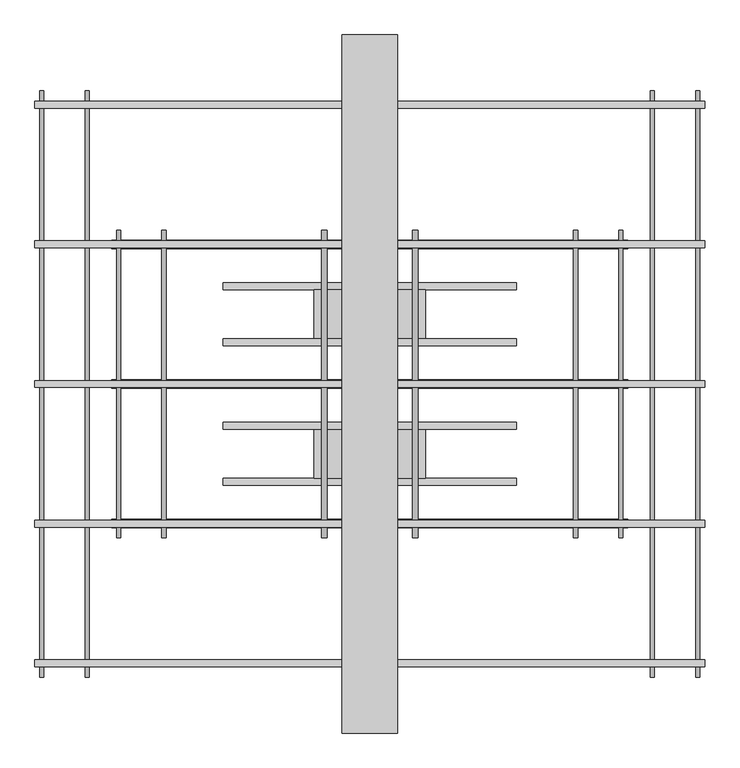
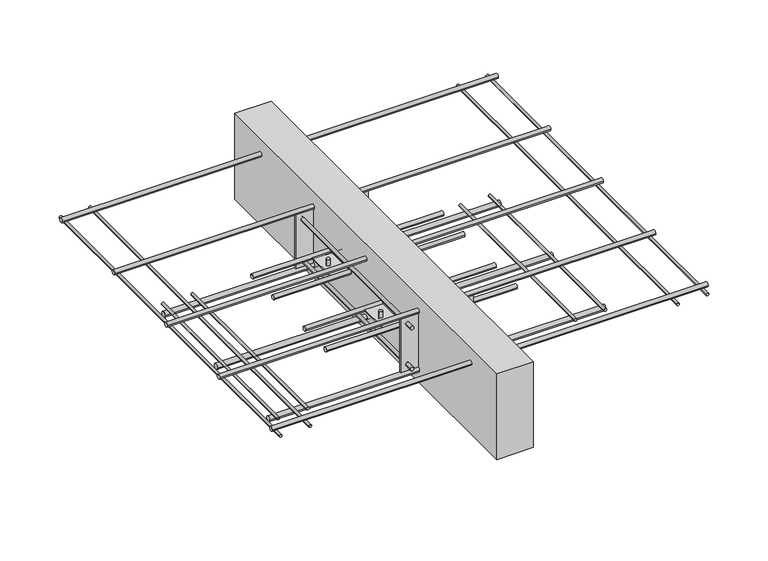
"""IFC4 building model written with IfcOpenShell, lengths in millimetres: fastener geometry, ACINOXplus_Typenreihe_K : KB+ S2."""

import ifcopenshell
import ifcopenshell.guid

model = None  # the IFC model being written
_history = None  # IfcOwnerHistory: only IFC2X3 demands one
_inside = {}  # id of a spatial element -> (the spatial element, [elements in it])
_under = {}  # id of a project, library or spatial element -> (it, [spatial elements below it])
_declared = {}  # id of a project -> (the project, [libraries it declares])
_typed = {}  # id of a type object -> (the type object, [elements of that type])
_made_of = {}  # id of a material, layer set ... -> (it, [elements and type objects made of it])


def new_model(schema):
    """Start an empty IFC model of exactly this schema.

    Asked for "IFC4X3", IfcOpenShell would pick the latest addendum, in which some entities
    have other attributes; the version numbers below select the first issue.
    IFC2X3 requires an IfcOwnerHistory on every rooted entity: one is made here for all.
    """
    global model, _history
    if schema == "IFC4X3":
        model = ifcopenshell.file(schema_version=(4, 3, 0, 0))
    else:
        model = ifcopenshell.file(schema=schema)
    _inside.clear()
    _under.clear()
    _declared.clear()
    _typed.clear()
    _made_of.clear()
    _history = None
    if model.schema == "IFC2X3":
        org = make("IfcOrganization", Name="unknown")
        user = make(
            "IfcPersonAndOrganization",
            ThePerson=make("IfcPerson", FamilyName="unknown"),
            TheOrganization=org,
        )
        app = make(
            "IfcApplication",
            ApplicationDeveloper=org,
            Version="unknown",
            ApplicationFullName="unknown",
            ApplicationIdentifier="unknown",
        )
        _history = make(
            "IfcOwnerHistory",
            OwningUser=user,
            OwningApplication=app,
            ChangeAction="ADDED",
            CreationDate=0,
        )
    return model


def make(cls, **values):
    """One entity of the class cls with the attributes given. An attribute that is None is left unset."""
    return model.create_entity(
        cls, **{name: value for name, value in values.items() if value is not None}
    )


def rooted(cls, **values):
    """An entity with a GlobalId (a new one), such as an element, a storey or a relation."""
    return make(cls, GlobalId=ifcopenshell.guid.new(), OwnerHistory=_history, **values)


def si_unit(unit_type, name, prefix=None):
    """IfcSIUnit, for example si_unit("LENGTHUNIT", "METRE", prefix="MILLI")."""
    return make("IfcSIUnit", UnitType=unit_type, Prefix=prefix, Name=name)


def assignment(units):
    """IfcUnitAssignment: the units of a project."""
    return None if units is None else make("IfcUnitAssignment", Units=units)


def point(xyz):
    """IfcCartesianPoint."""
    return None if xyz is None else make("IfcCartesianPoint", Coordinates=xyz)


def direction(xyz):
    """IfcDirection."""
    return None if xyz is None else make("IfcDirection", DirectionRatios=xyz)


def frame(location, z_axis=None, x_axis=None):
    """IfcAxis2Placement3D, a coordinate frame: its origin and axes. An axis left out is left unset."""
    return make(
        "IfcAxis2Placement3D",
        Location=point(location),
        Axis=direction(z_axis),
        RefDirection=direction(x_axis),
    )


def frame_2d(location, x_axis=None):
    """IfcAxis2Placement2D, a coordinate frame in the plane: its origin and x axis."""
    return make(
        "IfcAxis2Placement2D", Location=point(location), RefDirection=direction(x_axis)
    )


def origin():
    """The frame at (0, 0, 0) with its axes left unset."""
    return frame((0.0, 0.0, 0.0))


def place(relative_to, where):
    """IfcLocalPlacement: puts the frame where relative to a parent placement (None: the world)."""
    return make(
        "IfcLocalPlacement", PlacementRelTo=relative_to, RelativePlacement=where
    )


def context(
    kind, dimensions, precision=None, world=None, true_north=None, identifier=None
):
    """IfcGeometricRepresentationContext, for example the 3D "Model" context."""
    return make(
        "IfcGeometricRepresentationContext",
        ContextIdentifier=identifier,
        ContextType=kind,
        CoordinateSpaceDimension=dimensions,
        Precision=precision,
        WorldCoordinateSystem=world,
        TrueNorth=true_north,
    )


def project(units=None, contexts=None):
    """IfcProject with its units and contexts."""
    return rooted(
        "IfcProject",
        Name="project",
        RepresentationContexts=contexts,
        UnitsInContext=assignment(units),
    )


def spatial(cls, under=None, at=None, **own):
    """A site, building, storey or space (cls), placed at a placement, below another one or the project."""
    s = rooted(cls, ObjectPlacement=at, **own)
    if under is not None:
        _under.setdefault(under.id(), (under, []))[1].append(s)
    return s


def polyline(points):
    """IfcPolyline through the points."""
    return make("IfcPolyline", Points=[point(p) for p in points])


def circle_curve(where, radius):
    """IfcCircle in the frame where."""
    return make("IfcCircle", Position=where, Radius=radius)


def trimmed(basis, trim1, trim2, sense, master):
    """IfcTrimmedCurve: the piece of a basis curve between two trims."""
    return make(
        "IfcTrimmedCurve",
        BasisCurve=basis,
        Trim1=trim1,
        Trim2=trim2,
        SenseAgreement=sense,
        MasterRepresentation=master,
    )


def segment(curve, same_sense, transition):
    """IfcCompositeCurveSegment."""
    return make(
        "IfcCompositeCurveSegment",
        Transition=transition,
        SameSense=same_sense,
        ParentCurve=curve,
    )


def composite_curve(segments, self_intersect=None):
    """IfcCompositeCurve: segments joined end to end."""
    return make("IfcCompositeCurve", Segments=segments, SelfIntersect=self_intersect)


def outline(outer, holes=None, kind="AREA"):
    """IfcArbitraryClosedProfileDef: a profile drawn as a closed curve; with holes, ...WithVoids."""
    if holes is None:
        return make("IfcArbitraryClosedProfileDef", ProfileType=kind, OuterCurve=outer)
    return make(
        "IfcArbitraryProfileDefWithVoids",
        ProfileType=kind,
        OuterCurve=outer,
        InnerCurves=holes,
    )


def extrude(swept, where, along, depth):
    """IfcExtrudedAreaSolid: the profile swept, set in the frame where, extruded along a direction by depth."""
    return make(
        "IfcExtrudedAreaSolid",
        SweptArea=swept,
        Position=where,
        ExtrudedDirection=direction(along),
        Depth=depth,
    )


def shape(context_of_items, identifier, shape_type, items):
    """IfcShapeRepresentation: the items that make up one representation, for example the "Body"."""
    return make(
        "IfcShapeRepresentation",
        ContextOfItems=context_of_items,
        RepresentationIdentifier=identifier,
        RepresentationType=shape_type,
        Items=items,
    )


def source(mapping_origin, context_of_items, identifier, shape_type, items):
    """IfcRepresentationMap: a shape defined once, which mapped items show again and again."""
    return make(
        "IfcRepresentationMap",
        MappingOrigin=mapping_origin,
        MappedRepresentation=shape(context_of_items, identifier, shape_type, items),
    )


def transform(
    local_origin,
    x_axis=None,
    y_axis=None,
    z_axis=None,
    scale=None,
    scale2=None,
    scale3=None,
    uniform=True,
):
    """IfcCartesianTransformationOperator3D, or its non-uniform kind. x_axis, y_axis, z_axis: its Axis1, 2, 3."""
    if uniform:
        return make(
            "IfcCartesianTransformationOperator3D",
            Axis1=direction(x_axis),
            Axis2=direction(y_axis),
            LocalOrigin=point(local_origin),
            Scale=scale,
            Axis3=direction(z_axis),
        )
    return make(
        "IfcCartesianTransformationOperator3DnonUniform",
        Axis1=direction(x_axis),
        Axis2=direction(y_axis),
        LocalOrigin=point(local_origin),
        Scale=scale,
        Axis3=direction(z_axis),
        Scale2=scale2,
        Scale3=scale3,
    )


def mapped(mapping_source, mapping_target):
    """IfcMappedItem: shows the shape of a source again, moved by a transform."""
    return make(
        "IfcMappedItem", MappingSource=mapping_source, MappingTarget=mapping_target
    )


def made_of(thing, what):
    """Note that an element or type object is made of a material, layer set ...; save() writes the relation."""
    if what is not None:
        _made_of.setdefault(what.id(), (what, []))[1].append(thing)
    return thing


def element(
    cls,
    number,
    at=None,
    inside=None,
    cuts=None,
    type_object=None,
    material=None,
    context=None,
    identifier="Body",
    shape_type=None,
    held_by="IfcProductDefinitionShape",
    body=None,
    shapes=None,
    **own,
):
    """One element of the class cls, such as IfcWall. Its Tag is "e" and its number.

    at: its placement. inside: the storey or other place that contains it. cuts: it is an
    opening in that element (IfcRelVoidsElement). A single representation is given by context,
    identifier, shape_type and body (its items); several are given by shapes. held_by: the class
    of the entity that holds the representations. save() writes the other relations.
    """
    e = rooted(cls, Tag="e%d" % number, ObjectPlacement=at, **own)
    if body is not None:
        shapes = [shape(context, identifier, shape_type, body)]
    if shapes is not None:
        e.Representation = make(held_by, Representations=shapes)
    if inside is not None:
        _inside.setdefault(inside.id(), (inside, []))[1].append(e)
    if cuts is not None:
        rooted(
            "IfcRelVoidsElement", RelatingBuildingElement=cuts, RelatedOpeningElement=e
        )
    if type_object is not None:
        _typed.setdefault(type_object.id(), (type_object, []))[1].append(e)
    return made_of(e, material)


def aggregate(whole, parts):
    """IfcRelAggregates: a whole, such as a stair, and the parts it consists of."""
    return rooted("IfcRelAggregates", RelatingObject=whole, RelatedObjects=parts)


def save(model, path):
    """Write the relations noted so far, then the file.

    IfcRelAggregates (storeys below a building ...), IfcRelContainedInSpatialStructure (elements
    in a storey), IfcRelDefinesByType, IfcRelAssociatesMaterial and IfcRelDeclares: one each for
    every whole, place, type object, material and project.
    """
    for whole, parts in _under.values():
        aggregate(whole, parts)
    for where, things in _inside.values():
        rooted(
            "IfcRelContainedInSpatialStructure",
            RelatedElements=things,
            RelatingStructure=where,
        )
    for kind, things in _typed.values():
        rooted("IfcRelDefinesByType", RelatedObjects=things, RelatingType=kind)
    for what, things in _made_of.values():
        rooted("IfcRelAssociatesMaterial", RelatedObjects=things, RelatingMaterial=what)
    for by, libraries in _declared.values():
        rooted("IfcRelDeclares", RelatingContext=by, RelatedDefinitions=libraries)
    model.write(path)


def plane_surface(at):
    """IfcPlane: the flat surface through the origin of the frame at, square to its z axis."""
    return make("IfcPlane", Position=at)


def cylinder_surface(at, radius):
    """IfcCylindricalSurface: all points at the distance radius from the z axis of the frame at."""
    return make("IfcCylindricalSurface", Position=at, Radius=radius)


def advanced_brep(points, edges, surfaces, faces):
    """IfcAdvancedBrep: a solid bounded by faces that lie on surfaces and meet in shared edges.

    An edge is (start, end): straight between two places in points (the first is 0);
    or (start, end, curve); or (start, end, curve, False) where it runs against its curve.
    A face is (place in surfaces, loops), or (place, loops, False) where it looks against
    its surface's normal. A loop lists edges by number (the first is 1), with a minus sign
    where the edge is run from its end to its start. The first loop is the outer one.
    """
    corners = [point(p) for p in points]
    vertices = [make("IfcVertexPoint", VertexGeometry=c) for c in corners]
    made = []
    for start, end, *more in edges:
        made.append(
            make(
                "IfcEdgeCurve",
                EdgeStart=vertices[start],
                EdgeEnd=vertices[end],
                EdgeGeometry=more[0] if more else make("IfcPolyline", Points=[corners[start], corners[end]]),
                SameSense=more[1] if len(more) > 1 else True,
            )
        )
    hull = []
    for where, loops, *sense in faces:
        bounds = []
        for j, loop in enumerate(loops):
            ring = [make("IfcOrientedEdge", EdgeElement=made[abs(k) - 1], Orientation=k > 0) for k in loop]
            bounds.append(
                make(
                    "IfcFaceOuterBound" if j == 0 else "IfcFaceBound",
                    Bound=make("IfcEdgeLoop", EdgeList=ring),
                    Orientation=True,
                )
            )
        hull.append(make("IfcAdvancedFace", Bounds=bounds, FaceSurface=surfaces[where], SameSense=sense[0] if sense else True))
    return make("IfcAdvancedBrep", Outer=make("IfcClosedShell", CfsFaces=hull))


def fastener_a3724b27(model_context):
    return source(origin(), model_context, "Body", "SolidModel", [
        extrude(outline(composite_curve([segment(trimmed(circle_curve(frame_2d((-140.0, -102.5)), 5.0), [point((-145.0, -102.5))], [point((-135.0, -102.5))], False, "CARTESIAN"), True, "CONTINUOUS"), segment(trimmed(circle_curve(frame_2d((-140.0, -102.5)), 5.0), [point((-135.0, -102.5))], [point((-145.0, -102.5))], False, "CARTESIAN"), True, "CONTINUOUS")], self_intersect=False)), frame((-210.0, 0.0, 0.0), z_axis=(1.0, 0.0, 0.0), x_axis=(0.0, 1.0, 0.0)), (0.0, 0.0, 1.0), 420.0),
        extrude(outline(composite_curve([segment(trimmed(circle_curve(frame_2d((-60.0, -102.5)), 5.0), [point((-65.0, -102.5))], [point((-55.0, -102.5))], False, "CARTESIAN"), True, "CONTINUOUS"), segment(trimmed(circle_curve(frame_2d((-60.0, -102.5)), 5.0), [point((-55.0, -102.5))], [point((-65.0, -102.5))], False, "CARTESIAN"), True, "CONTINUOUS")], self_intersect=False)), frame((-210.0, 0.0, 0.0), z_axis=(1.0, 0.0, 0.0), x_axis=(0.0, 1.0, 0.0)), (0.0, 0.0, 1.0), 420.0),
        advanced_brep(
        [(-69.0, -100.0, -87.5), (-61.0, -100.0, -87.5), (61.0, -100.0, -87.5), (69.0, -100.0, -87.5), (-69.0, -100.0, -117.5), (-61.0, -100.0, -117.5), (61.0, -100.0, -117.5), (69.0, -100.0, -117.5), (-69.0, -100.0, -101.0), (-61.0, -100.0, -101.0), (-61.0, -100.0, -104.0), (-69.0, -100.0, -104.0), (61.0, -100.0, -101.0), (69.0, -100.0, -101.0), (69.0, -100.0, -104.0), (61.0, -100.0, -104.0), (80.0, -65.0, -101.0), (-80.0, -65.0, -101.0), (-80.0, -135.0, -101.0), (80.0, -135.0, -101.0), (80.0, -65.0, -104.0), (80.0, -135.0, -104.0), (-80.0, -135.0, -104.0), (-80.0, -65.0, -104.0)],
        [
            (0, 1, circle_curve(frame((-65.0, -100.0, -87.5), z_axis=(0.0, 0.0, 1.0), x_axis=(1.0, 0.0, 0.0)), 4.0)),
            (1, 0, circle_curve(frame((-65.0, -100.0, -87.5), z_axis=(0.0, 0.0, 1.0), x_axis=(1.0, 0.0, 0.0)), 4.0)),
            (2, 3, circle_curve(frame((65.0, -100.0, -87.5), z_axis=(0.0, 0.0, 1.0), x_axis=(1.0, 0.0, 0.0)), 4.0)),
            (3, 2, circle_curve(frame((65.0, -100.0, -87.5), z_axis=(0.0, 0.0, 1.0), x_axis=(1.0, 0.0, 0.0)), 4.0)),
            (4, 5, circle_curve(frame((-65.0, -100.0, -117.5), z_axis=(0.0, 0.0, -1.0), x_axis=(1.0, 0.0, 0.0)), 4.0)),
            (5, 4, circle_curve(frame((-65.0, -100.0, -117.5), z_axis=(0.0, 0.0, -1.0), x_axis=(1.0, 0.0, 0.0)), 4.0)),
            (6, 7, circle_curve(frame((65.0, -100.0, -117.5), z_axis=(0.0, 0.0, -1.0), x_axis=(1.0, 0.0, 0.0)), 4.0)),
            (7, 6, circle_curve(frame((65.0, -100.0, -117.5), z_axis=(0.0, 0.0, -1.0), x_axis=(1.0, 0.0, 0.0)), 4.0)),
            (0, 8),
            (8, 9, circle_curve(frame((-65.0, -100.0, -101.0), z_axis=(0.0, 0.0, 1.0), x_axis=(1.0, 0.0, 0.0)), 4.0)),
            (9, 1),
            (5, 10),
            (10, 11, circle_curve(frame((-65.0, -100.0, -104.0), z_axis=(0.0, 0.0, -1.0), x_axis=(1.0, 0.0, 0.0)), 4.0)),
            (11, 4),
            (9, 8, circle_curve(frame((-65.0, -100.0, -101.0), z_axis=(0.0, 0.0, 1.0), x_axis=(1.0, 0.0, 0.0)), 4.0)),
            (11, 10, circle_curve(frame((-65.0, -100.0, -104.0), z_axis=(0.0, 0.0, -1.0), x_axis=(1.0, 0.0, 0.0)), 4.0)),
            (2, 12),
            (12, 13, circle_curve(frame((65.0, -100.0, -101.0), z_axis=(0.0, 0.0, 1.0), x_axis=(1.0, 0.0, 0.0)), 4.0)),
            (13, 3),
            (7, 14),
            (14, 15, circle_curve(frame((65.0, -100.0, -104.0), z_axis=(0.0, 0.0, -1.0), x_axis=(1.0, 0.0, 0.0)), 4.0)),
            (15, 6),
            (13, 12, circle_curve(frame((65.0, -100.0, -101.0), z_axis=(0.0, 0.0, 1.0), x_axis=(1.0, 0.0, 0.0)), 4.0)),
            (15, 14, circle_curve(frame((65.0, -100.0, -104.0), z_axis=(0.0, 0.0, -1.0), x_axis=(1.0, 0.0, 0.0)), 4.0)),
            (16, 17),
            (17, 18),
            (18, 19),
            (19, 16),
            (20, 21),
            (21, 22),
            (22, 23),
            (23, 20),
            (16, 20),
            (23, 17),
            (22, 18),
            (21, 19),
        ],
        [
            plane_surface(frame((-61.0, -100.0, -87.5), z_axis=(0.0, 0.0, 1.0), x_axis=(0.0, 1.0, 0.0))),
            plane_surface(frame((-61.0, -100.0, -117.5), z_axis=(0.0, 0.0, -1.0), x_axis=(0.0, -1.0, 0.0))),
            cylinder_surface(frame((-65.0, -100.0, -117.5), z_axis=(0.0, 0.0, 1.0), x_axis=(1.0, 0.0, 0.0)), 4.0),
            cylinder_surface(frame((65.0, -100.0, -102.5), z_axis=(0.0, 0.0, 1.0), x_axis=(1.0, 0.0, 0.0)), 4.0),
            plane_surface(frame((-80.0, -65.0, -101.0), z_axis=(0.0, 0.0, 1.0), x_axis=(-1.0, 0.0, 0.0))),
            plane_surface(frame((-80.0, -65.0, -104.0), z_axis=(0.0, 0.0, -1.0), x_axis=(1.0, 0.0, 0.0))),
            plane_surface(frame((80.0, -65.0, -101.0), z_axis=(0.0, 1.0, 0.0), x_axis=(0.0, 0.0, -1.0))),
            plane_surface(frame((-80.0, -65.0, -101.0), z_axis=(-1.0, 0.0, 0.0), x_axis=(0.0, 0.0, -1.0))),
            plane_surface(frame((-80.0, -135.0, -101.0), z_axis=(0.0, -1.0, 0.0), x_axis=(0.0, 0.0, -1.0))),
            plane_surface(frame((80.0, -135.0, -101.0), z_axis=(1.0, 0.0, 0.0), x_axis=(0.0, 0.0, -1.0))),
        ],
        [
            (0, [[1, 2]]),
            (0, [[3, 4]]),
            (1, [[5, 6]]),
            (1, [[7, 8]]),
            (2, [[-1, 9, 10, 11]]),
            (2, [[-6, 12, 13, 14]]),
            (2, [[-2, -11, 15, -9]]),
            (2, [[-5, -14, 16, -12]]),
            (3, [[-3, 17, 18, 19]]),
            (3, [[-8, 20, 21, 22]]),
            (3, [[-4, -19, 23, -17]]),
            (3, [[-7, -22, 24, -20]]),
            (4, [[25, 26, 27, 28], [-10, -15], [-18, -23]]),
            (5, [[29, 30, 31, 32], [-13, -16], [-21, -24]]),
            (6, [[-25, 33, -32, 34]]),
            (7, [[-26, -34, -31, 35]]),
            (8, [[-27, -35, -30, 36]]),
            (9, [[-28, -36, -29, -33]]),
        ],
    ),
        extrude(outline(composite_curve([segment(trimmed(circle_curve(frame_2d((60.0, -102.5)), 5.0), [point((55.0, -102.5))], [point((65.0, -102.5))], False, "CARTESIAN"), True, "CONTINUOUS"), segment(trimmed(circle_curve(frame_2d((60.0, -102.5)), 5.0), [point((65.0, -102.5))], [point((55.0, -102.5))], False, "CARTESIAN"), True, "CONTINUOUS")], self_intersect=False)), frame((-210.0, 0.0, 0.0), z_axis=(1.0, 0.0, 0.0), x_axis=(0.0, 1.0, 0.0)), (0.0, 0.0, 1.0), 420.0),
        extrude(outline(composite_curve([segment(trimmed(circle_curve(frame_2d((140.0, -102.5)), 5.0), [point((135.0, -102.5))], [point((145.0, -102.5))], False, "CARTESIAN"), True, "CONTINUOUS"), segment(trimmed(circle_curve(frame_2d((140.0, -102.5)), 5.0), [point((145.0, -102.5))], [point((135.0, -102.5))], False, "CARTESIAN"), True, "CONTINUOUS")], self_intersect=False)), frame((-210.0, 0.0, 0.0), z_axis=(1.0, 0.0, 0.0), x_axis=(0.0, 1.0, 0.0)), (0.0, 0.0, 1.0), 420.0),
        advanced_brep(
        [(-69.0, 100.0, -87.5), (-61.0, 100.0, -87.5), (61.0, 100.0, -87.5), (69.0, 100.0, -87.5), (-69.0, 100.0, -117.5), (-61.0, 100.0, -117.5), (61.0, 100.0, -117.5), (69.0, 100.0, -117.5), (-69.0, 100.0, -101.0), (-61.0, 100.0, -101.0), (-61.0, 100.0, -104.0), (-69.0, 100.0, -104.0), (61.0, 100.0, -101.0), (69.0, 100.0, -101.0), (69.0, 100.0, -104.0), (61.0, 100.0, -104.0), (80.0, 135.0, -101.0), (-80.0, 135.0, -101.0), (-80.0, 65.0, -101.0), (80.0, 65.0, -101.0), (80.0, 135.0, -104.0), (80.0, 65.0, -104.0), (-80.0, 65.0, -104.0), (-80.0, 135.0, -104.0)],
        [
            (0, 1, circle_curve(frame((-65.0, 100.0, -87.5), z_axis=(0.0, 0.0, 1.0), x_axis=(1.0, 0.0, 0.0)), 4.0)),
            (1, 0, circle_curve(frame((-65.0, 100.0, -87.5), z_axis=(0.0, 0.0, 1.0), x_axis=(1.0, 0.0, 0.0)), 4.0)),
            (2, 3, circle_curve(frame((65.0, 100.0, -87.5), z_axis=(0.0, 0.0, 1.0), x_axis=(1.0, 0.0, 0.0)), 4.0)),
            (3, 2, circle_curve(frame((65.0, 100.0, -87.5), z_axis=(0.0, 0.0, 1.0), x_axis=(1.0, 0.0, 0.0)), 4.0)),
            (4, 5, circle_curve(frame((-65.0, 100.0, -117.5), z_axis=(0.0, 0.0, -1.0), x_axis=(1.0, 0.0, 0.0)), 4.0)),
            (5, 4, circle_curve(frame((-65.0, 100.0, -117.5), z_axis=(0.0, 0.0, -1.0), x_axis=(1.0, 0.0, 0.0)), 4.0)),
            (6, 7, circle_curve(frame((65.0, 100.0, -117.5), z_axis=(0.0, 0.0, -1.0), x_axis=(1.0, 0.0, 0.0)), 4.0)),
            (7, 6, circle_curve(frame((65.0, 100.0, -117.5), z_axis=(0.0, 0.0, -1.0), x_axis=(1.0, 0.0, 0.0)), 4.0)),
            (0, 8),
            (8, 9, circle_curve(frame((-65.0, 100.0, -101.0), z_axis=(0.0, 0.0, 1.0), x_axis=(1.0, 0.0, 0.0)), 4.0)),
            (9, 1),
            (5, 10),
            (10, 11, circle_curve(frame((-65.0, 100.0, -104.0), z_axis=(0.0, 0.0, -1.0), x_axis=(1.0, 0.0, 0.0)), 4.0)),
            (11, 4),
            (9, 8, circle_curve(frame((-65.0, 100.0, -101.0), z_axis=(0.0, 0.0, 1.0), x_axis=(1.0, 0.0, 0.0)), 4.0)),
            (11, 10, circle_curve(frame((-65.0, 100.0, -104.0), z_axis=(0.0, 0.0, -1.0), x_axis=(1.0, 0.0, 0.0)), 4.0)),
            (2, 12),
            (12, 13, circle_curve(frame((65.0, 100.0, -101.0), z_axis=(0.0, 0.0, 1.0), x_axis=(1.0, 0.0, 0.0)), 4.0)),
            (13, 3),
            (7, 14),
            (14, 15, circle_curve(frame((65.0, 100.0, -104.0), z_axis=(0.0, 0.0, -1.0), x_axis=(1.0, 0.0, 0.0)), 4.0)),
            (15, 6),
            (13, 12, circle_curve(frame((65.0, 100.0, -101.0), z_axis=(0.0, 0.0, 1.0), x_axis=(1.0, 0.0, 0.0)), 4.0)),
            (15, 14, circle_curve(frame((65.0, 100.0, -104.0), z_axis=(0.0, 0.0, -1.0), x_axis=(1.0, 0.0, 0.0)), 4.0)),
            (16, 17),
            (17, 18),
            (18, 19),
            (19, 16),
            (20, 21),
            (21, 22),
            (22, 23),
            (23, 20),
            (16, 20),
            (23, 17),
            (22, 18),
            (21, 19),
        ],
        [
            plane_surface(frame((-61.0, 100.0, -87.5), z_axis=(0.0, 0.0, 1.0), x_axis=(0.0, 1.0, 0.0))),
            plane_surface(frame((-61.0, 100.0, -117.5), z_axis=(0.0, 0.0, -1.0), x_axis=(0.0, -1.0, 0.0))),
            cylinder_surface(frame((-65.0, 100.0, -117.5), z_axis=(0.0, 0.0, 1.0), x_axis=(1.0, 0.0, 0.0)), 4.0),
            cylinder_surface(frame((65.0, 100.0, -102.5), z_axis=(0.0, 0.0, 1.0), x_axis=(1.0, 0.0, 0.0)), 4.0),
            plane_surface(frame((-80.0, 135.0, -101.0), z_axis=(0.0, 0.0, 1.0), x_axis=(-1.0, 0.0, 0.0))),
            plane_surface(frame((-80.0, 135.0, -104.0), z_axis=(0.0, 0.0, -1.0), x_axis=(1.0, 0.0, 0.0))),
            plane_surface(frame((80.0, 135.0, -101.0), z_axis=(0.0, 1.0, 0.0), x_axis=(0.0, 0.0, -1.0))),
            plane_surface(frame((-80.0, 135.0, -101.0), z_axis=(-1.0, 0.0, 0.0), x_axis=(0.0, 0.0, -1.0))),
            plane_surface(frame((-80.0, 65.0, -101.0), z_axis=(0.0, -1.0, 0.0), x_axis=(0.0, 0.0, -1.0))),
            plane_surface(frame((80.0, 65.0, -101.0), z_axis=(1.0, 0.0, 0.0), x_axis=(0.0, 0.0, -1.0))),
        ],
        [
            (0, [[1, 2]]),
            (0, [[3, 4]]),
            (1, [[5, 6]]),
            (1, [[7, 8]]),
            (2, [[-1, 9, 10, 11]]),
            (2, [[-6, 12, 13, 14]]),
            (2, [[-2, -11, 15, -9]]),
            (2, [[-5, -14, 16, -12]]),
            (3, [[-3, 17, 18, 19]]),
            (3, [[-8, 20, 21, 22]]),
            (3, [[-4, -19, 23, -17]]),
            (3, [[-7, -22, 24, -20]]),
            (4, [[25, 26, 27, 28], [-10, -15], [-18, -23]]),
            (5, [[29, 30, 31, 32], [-13, -16], [-21, -24]]),
            (6, [[-25, 33, -32, 34]]),
            (7, [[-26, -34, -31, 35]]),
            (8, [[-27, -35, -30, 36]]),
            (9, [[-28, -36, -29, -33]]),
        ],
    ),
        extrude(outline(polyline([(40.0, 500.0), (40.0, -500.0), (-40.0, -500.0), (-40.0, 500.0), (40.0, 500.0)])), frame((0.0, 0.0, -200.0), z_axis=(0.0, 0.0, 1.0), x_axis=(1.0, 0.0, 0.0)), (0.0, 0.0, 1.0), 200.0),
        extrude(outline(polyline([(80.0, -198.5), (80.0, -201.5), (-80.0, -201.5), (-80.0, -198.5), (80.0, -198.5)])), frame((0.0, 0.0, -165.0), z_axis=(0.0, 0.0, 1.0), x_axis=(1.0, 0.0, 0.0)), (0.0, 0.0, 1.0), 125.0),
        extrude(outline(polyline([(80.0, 201.5), (80.0, 198.5), (-80.0, 198.5), (-80.0, 201.5), (80.0, 201.5)])), frame((0.0, 0.0, -165.0), z_axis=(0.0, 0.0, 1.0), x_axis=(1.0, 0.0, 0.0)), (0.0, 0.0, 1.0), 125.0),
        extrude(outline(composite_curve([segment(trimmed(circle_curve(frame_2d((-150.0, -65.0)), 4.0), [point((-150.0, -69.0))], [point((-150.0, -61.0))], False, "CARTESIAN"), True, "CONTINUOUS"), segment(trimmed(circle_curve(frame_2d((-150.0, -65.0)), 4.0), [point((-150.0, -61.0))], [point((-150.0, -69.0))], False, "CARTESIAN"), True, "CONTINUOUS")], self_intersect=False)), frame((0.0, 201.5, 0.0), z_axis=(0.0, 1.0, 0.0), x_axis=(0.0, 0.0, 1.0)), (0.0, 0.0, 1.0), 18.5),
        extrude(outline(composite_curve([segment(trimmed(circle_curve(frame_2d((-150.0, -65.0)), 4.0), [point((-150.0, -61.0))], [point((-150.0, -69.0))], False, "CARTESIAN"), True, "CONTINUOUS"), segment(trimmed(circle_curve(frame_2d((-150.0, -65.0)), 4.0), [point((-150.0, -69.0))], [point((-150.0, -61.0))], False, "CARTESIAN"), True, "CONTINUOUS")], self_intersect=False)), frame((0.0, -220.0, 0.0), z_axis=(0.0, 1.0, 0.0), x_axis=(0.0, 0.0, 1.0)), (0.0, 0.0, 1.0), 18.5),
        extrude(outline(composite_curve([segment(trimmed(circle_curve(frame_2d((-150.0, -65.0)), 4.0), [point((-150.0, -69.0))], [point((-150.0, -61.0))], False, "CARTESIAN"), True, "CONTINUOUS"), segment(trimmed(circle_curve(frame_2d((-150.0, -65.0)), 4.0), [point((-150.0, -61.0))], [point((-150.0, -69.0))], False, "CARTESIAN"), True, "CONTINUOUS")], self_intersect=False)), frame((0.0, -198.5, 0.0), z_axis=(0.0, 1.0, 0.0), x_axis=(0.0, 0.0, 1.0)), (0.0, 0.0, 1.0), 397.0),
        extrude(outline(composite_curve([segment(trimmed(circle_curve(frame_2d((-150.0, 65.0)), 4.0), [point((-150.0, 61.0))], [point((-150.0, 69.0))], False, "CARTESIAN"), True, "CONTINUOUS"), segment(trimmed(circle_curve(frame_2d((-150.0, 65.0)), 4.0), [point((-150.0, 69.0))], [point((-150.0, 61.0))], False, "CARTESIAN"), True, "CONTINUOUS")], self_intersect=False)), frame((0.0, 201.5, 0.0), z_axis=(0.0, 1.0, 0.0), x_axis=(0.0, 0.0, 1.0)), (0.0, 0.0, 1.0), 18.5),
        extrude(outline(composite_curve([segment(trimmed(circle_curve(frame_2d((-150.0, 65.0)), 4.0), [point((-150.0, 69.0))], [point((-150.0, 61.0))], False, "CARTESIAN"), True, "CONTINUOUS"), segment(trimmed(circle_curve(frame_2d((-150.0, 65.0)), 4.0), [point((-150.0, 61.0))], [point((-150.0, 69.0))], False, "CARTESIAN"), True, "CONTINUOUS")], self_intersect=False)), frame((0.0, -220.0, 0.0), z_axis=(0.0, 1.0, 0.0), x_axis=(0.0, 0.0, 1.0)), (0.0, 0.0, 1.0), 18.5),
        extrude(outline(composite_curve([segment(trimmed(circle_curve(frame_2d((-150.0, 65.0)), 4.0), [point((-150.0, 61.0))], [point((-150.0, 69.0))], False, "CARTESIAN"), True, "CONTINUOUS"), segment(trimmed(circle_curve(frame_2d((-150.0, 65.0)), 4.0), [point((-150.0, 69.0))], [point((-150.0, 61.0))], False, "CARTESIAN"), True, "CONTINUOUS")], self_intersect=False)), frame((0.0, -198.5, 0.0), z_axis=(0.0, 1.0, 0.0), x_axis=(0.0, 0.0, 1.0)), (0.0, 0.0, 1.0), 397.0),
        extrude(outline(composite_curve([segment(trimmed(circle_curve(frame_2d((-55.0, -65.0)), 4.0), [point((-55.0, -69.0))], [point((-55.0, -61.0))], False, "CARTESIAN"), True, "CONTINUOUS"), segment(trimmed(circle_curve(frame_2d((-55.0, -65.0)), 4.0), [point((-55.0, -61.0))], [point((-55.0, -69.0))], False, "CARTESIAN"), True, "CONTINUOUS")], self_intersect=False)), frame((0.0, 201.5, 0.0), z_axis=(0.0, 1.0, 0.0), x_axis=(0.0, 0.0, 1.0)), (0.0, 0.0, 1.0), 18.5),
        extrude(outline(composite_curve([segment(trimmed(circle_curve(frame_2d((-55.0, -65.0)), 4.0), [point((-55.0, -61.0))], [point((-55.0, -69.0))], False, "CARTESIAN"), True, "CONTINUOUS"), segment(trimmed(circle_curve(frame_2d((-55.0, -65.0)), 4.0), [point((-55.0, -69.0))], [point((-55.0, -61.0))], False, "CARTESIAN"), True, "CONTINUOUS")], self_intersect=False)), frame((0.0, -220.0, 0.0), z_axis=(0.0, 1.0, 0.0), x_axis=(0.0, 0.0, 1.0)), (0.0, 0.0, 1.0), 18.5),
        extrude(outline(composite_curve([segment(trimmed(circle_curve(frame_2d((-55.0, -65.0)), 4.0), [point((-55.0, -69.0))], [point((-55.0, -61.0))], False, "CARTESIAN"), True, "CONTINUOUS"), segment(trimmed(circle_curve(frame_2d((-55.0, -65.0)), 4.0), [point((-55.0, -61.0))], [point((-55.0, -69.0))], False, "CARTESIAN"), True, "CONTINUOUS")], self_intersect=False)), frame((0.0, -198.5, 0.0), z_axis=(0.0, 1.0, 0.0), x_axis=(0.0, 0.0, 1.0)), (0.0, 0.0, 1.0), 397.0),
        extrude(outline(composite_curve([segment(trimmed(circle_curve(frame_2d((-55.0, 65.0)), 4.0), [point((-55.0, 61.0))], [point((-55.0, 69.0))], False, "CARTESIAN"), True, "CONTINUOUS"), segment(trimmed(circle_curve(frame_2d((-55.0, 65.0)), 4.0), [point((-55.0, 69.0))], [point((-55.0, 61.0))], False, "CARTESIAN"), True, "CONTINUOUS")], self_intersect=False)), frame((0.0, 201.5, 0.0), z_axis=(0.0, 1.0, 0.0), x_axis=(0.0, 0.0, 1.0)), (0.0, 0.0, 1.0), 18.5),
        extrude(outline(composite_curve([segment(trimmed(circle_curve(frame_2d((-55.0, 65.0)), 4.0), [point((-55.0, 69.0))], [point((-55.0, 61.0))], False, "CARTESIAN"), True, "CONTINUOUS"), segment(trimmed(circle_curve(frame_2d((-55.0, 65.0)), 4.0), [point((-55.0, 61.0))], [point((-55.0, 69.0))], False, "CARTESIAN"), True, "CONTINUOUS")], self_intersect=False)), frame((0.0, -220.0, 0.0), z_axis=(0.0, 1.0, 0.0), x_axis=(0.0, 0.0, 1.0)), (0.0, 0.0, 1.0), 18.5),
        extrude(outline(composite_curve([segment(trimmed(circle_curve(frame_2d((-55.0, 65.0)), 4.0), [point((-55.0, 61.0))], [point((-55.0, 69.0))], False, "CARTESIAN"), True, "CONTINUOUS"), segment(trimmed(circle_curve(frame_2d((-55.0, 65.0)), 4.0), [point((-55.0, 69.0))], [point((-55.0, 61.0))], False, "CARTESIAN"), True, "CONTINUOUS")], self_intersect=False)), frame((0.0, -198.5, 0.0), z_axis=(0.0, 1.0, 0.0), x_axis=(0.0, 0.0, 1.0)), (0.0, 0.0, 1.0), 397.0),
        extrude(outline(composite_curve([segment(trimmed(circle_curve(frame_2d((0.0, -171.0)), 6.0), [point((-6.0, -171.0))], [point((6.0, -171.0))], False, "CARTESIAN"), True, "CONTINUOUS"), segment(trimmed(circle_curve(frame_2d((0.0, -171.0)), 6.0), [point((6.0, -171.0))], [point((-6.0, -171.0))], False, "CARTESIAN"), True, "CONTINUOUS")], self_intersect=False)), frame((-370.0, 0.0, 0.0), z_axis=(1.0, 0.0, 0.0), x_axis=(0.0, 1.0, 0.0)), (0.0, 0.0, 1.0), 740.0),
        extrude(outline(composite_curve([segment(trimmed(circle_curve(frame_2d((200.0, -171.0)), 6.0), [point((194.0, -171.0))], [point((206.0, -171.0))], False, "CARTESIAN"), True, "CONTINUOUS"), segment(trimmed(circle_curve(frame_2d((200.0, -171.0)), 6.0), [point((206.0, -171.0))], [point((194.0, -171.0))], False, "CARTESIAN"), True, "CONTINUOUS")], self_intersect=False)), frame((-370.0, 0.0, 0.0), z_axis=(1.0, 0.0, 0.0), x_axis=(0.0, 1.0, 0.0)), (0.0, 0.0, 1.0), 740.0),
        extrude(outline(composite_curve([segment(trimmed(circle_curve(frame_2d((-200.0, -171.0)), 6.0), [point((-206.0, -171.0))], [point((-194.0, -171.0))], False, "CARTESIAN"), True, "CONTINUOUS"), segment(trimmed(circle_curve(frame_2d((-200.0, -171.0)), 6.0), [point((-194.0, -171.0))], [point((-206.0, -171.0))], False, "CARTESIAN"), True, "CONTINUOUS")], self_intersect=False)), frame((-370.0, 0.0, 0.0), z_axis=(1.0, 0.0, 0.0), x_axis=(0.0, 1.0, 0.0)), (0.0, 0.0, 1.0), 740.0),
        extrude(outline(composite_curve([segment(trimmed(circle_curve(frame_2d((0.0, -35.0)), 5.0), [point((-5.0, -35.0))], [point((5.0, -35.0))], False, "CARTESIAN"), True, "CONTINUOUS"), segment(trimmed(circle_curve(frame_2d((0.0, -35.0)), 5.0), [point((5.0, -35.0))], [point((-5.0, -35.0))], False, "CARTESIAN"), True, "CONTINUOUS")], self_intersect=False)), frame((-480.0, 0.0, 0.0), z_axis=(1.0, 0.0, 0.0), x_axis=(0.0, 1.0, 0.0)), (0.0, 0.0, 1.0), 960.0),
        extrude(outline(composite_curve([segment(trimmed(circle_curve(frame_2d((200.0, -35.0)), 5.0), [point((195.0, -35.0))], [point((205.0, -35.0))], False, "CARTESIAN"), True, "CONTINUOUS"), segment(trimmed(circle_curve(frame_2d((200.0, -35.0)), 5.0), [point((205.0, -35.0))], [point((195.0, -35.0))], False, "CARTESIAN"), True, "CONTINUOUS")], self_intersect=False)), frame((-480.0, 0.0, 0.0), z_axis=(1.0, 0.0, 0.0), x_axis=(0.0, 1.0, 0.0)), (0.0, 0.0, 1.0), 960.0),
        extrude(outline(composite_curve([segment(trimmed(circle_curve(frame_2d((400.0, -35.0)), 5.0), [point((395.0, -35.0))], [point((405.0, -35.0))], False, "CARTESIAN"), True, "CONTINUOUS"), segment(trimmed(circle_curve(frame_2d((400.0, -35.0)), 5.0), [point((405.0, -35.0))], [point((395.0, -35.0))], False, "CARTESIAN"), True, "CONTINUOUS")], self_intersect=False)), frame((-480.0, 0.0, 0.0), z_axis=(1.0, 0.0, 0.0), x_axis=(0.0, 1.0, 0.0)), (0.0, 0.0, 1.0), 960.0),
        extrude(outline(composite_curve([segment(trimmed(circle_curve(frame_2d((-200.0, -35.0)), 5.0), [point((-205.0, -35.0))], [point((-195.0, -35.0))], False, "CARTESIAN"), True, "CONTINUOUS"), segment(trimmed(circle_curve(frame_2d((-200.0, -35.0)), 5.0), [point((-195.0, -35.0))], [point((-205.0, -35.0))], False, "CARTESIAN"), True, "CONTINUOUS")], self_intersect=False)), frame((-480.0, 0.0, 0.0), z_axis=(1.0, 0.0, 0.0), x_axis=(0.0, 1.0, 0.0)), (0.0, 0.0, 1.0), 960.0),
        extrude(outline(composite_curve([segment(trimmed(circle_curve(frame_2d((-400.0, -35.0)), 5.0), [point((-405.0, -35.0))], [point((-395.0, -35.0))], False, "CARTESIAN"), True, "CONTINUOUS"), segment(trimmed(circle_curve(frame_2d((-400.0, -35.0)), 5.0), [point((-395.0, -35.0))], [point((-405.0, -35.0))], False, "CARTESIAN"), True, "CONTINUOUS")], self_intersect=False)), frame((-480.0, 0.0, 0.0), z_axis=(1.0, 0.0, 0.0), x_axis=(0.0, 1.0, 0.0)), (0.0, 0.0, 1.0), 960.0),
        extrude(outline(composite_curve([segment(trimmed(circle_curve(frame_2d((-162.0, -360.0)), 3.0), [point((-162.0, -357.0))], [point((-162.0, -363.0))], False, "CARTESIAN"), True, "CONTINUOUS"), segment(trimmed(circle_curve(frame_2d((-162.0, -360.0)), 3.0), [point((-162.0, -363.0))], [point((-162.0, -357.0))], False, "CARTESIAN"), True, "CONTINUOUS")], self_intersect=False)), frame((0.0, -220.0, 0.0), z_axis=(0.0, 1.0, 0.0), x_axis=(0.0, 0.0, 1.0)), (0.0, 0.0, 1.0), 440.0),
        extrude(outline(composite_curve([segment(trimmed(circle_curve(frame_2d((-162.0, -295.0)), 3.0), [point((-162.0, -292.0))], [point((-162.0, -298.0))], False, "CARTESIAN"), True, "CONTINUOUS"), segment(trimmed(circle_curve(frame_2d((-162.0, -295.0)), 3.0), [point((-162.0, -298.0))], [point((-162.0, -292.0))], False, "CARTESIAN"), True, "CONTINUOUS")], self_intersect=False)), frame((0.0, -220.0, 0.0), z_axis=(0.0, 1.0, 0.0), x_axis=(0.0, 0.0, 1.0)), (0.0, 0.0, 1.0), 440.0),
        extrude(outline(composite_curve([segment(trimmed(circle_curve(frame_2d((-162.0, 295.0)), 3.0), [point((-162.0, 298.0))], [point((-162.0, 292.0))], False, "CARTESIAN"), True, "CONTINUOUS"), segment(trimmed(circle_curve(frame_2d((-162.0, 295.0)), 3.0), [point((-162.0, 292.0))], [point((-162.0, 298.0))], False, "CARTESIAN"), True, "CONTINUOUS")], self_intersect=False)), frame((0.0, -220.0, 0.0), z_axis=(0.0, 1.0, 0.0), x_axis=(0.0, 0.0, 1.0)), (0.0, 0.0, 1.0), 440.0),
        extrude(outline(composite_curve([segment(trimmed(circle_curve(frame_2d((-162.0, 360.0)), 3.0), [point((-162.0, 363.0))], [point((-162.0, 357.0))], False, "CARTESIAN"), True, "CONTINUOUS"), segment(trimmed(circle_curve(frame_2d((-162.0, 360.0)), 3.0), [point((-162.0, 357.0))], [point((-162.0, 363.0))], False, "CARTESIAN"), True, "CONTINUOUS")], self_intersect=False)), frame((0.0, -220.0, 0.0), z_axis=(0.0, 1.0, 0.0), x_axis=(0.0, 0.0, 1.0)), (0.0, 0.0, 1.0), 440.0),
        extrude(outline(composite_curve([segment(trimmed(circle_curve(frame_2d((-43.0, 405.0)), 3.0), [point((-43.0, 408.0))], [point((-43.0, 402.0))], False, "CARTESIAN"), True, "CONTINUOUS"), segment(trimmed(circle_curve(frame_2d((-43.0, 405.0)), 3.0), [point((-43.0, 402.0))], [point((-43.0, 408.0))], False, "CARTESIAN"), True, "CONTINUOUS")], self_intersect=False)), frame((0.0, -420.0, 0.0), z_axis=(0.0, 1.0, 0.0), x_axis=(0.0, 0.0, 1.0)), (0.0, 0.0, 1.0), 840.0),
        extrude(outline(composite_curve([segment(trimmed(circle_curve(frame_2d((-43.0, 470.0)), 3.0), [point((-43.0, 473.0))], [point((-43.0, 467.0))], False, "CARTESIAN"), True, "CONTINUOUS"), segment(trimmed(circle_curve(frame_2d((-43.0, 470.0)), 3.0), [point((-43.0, 467.0))], [point((-43.0, 473.0))], False, "CARTESIAN"), True, "CONTINUOUS")], self_intersect=False)), frame((0.0, -420.0, 0.0), z_axis=(0.0, 1.0, 0.0), x_axis=(0.0, 0.0, 1.0)), (0.0, 0.0, 1.0), 840.0),
        extrude(outline(composite_curve([segment(trimmed(circle_curve(frame_2d((-43.0, -470.0)), 3.0), [point((-43.0, -467.0))], [point((-43.0, -473.0))], False, "CARTESIAN"), True, "CONTINUOUS"), segment(trimmed(circle_curve(frame_2d((-43.0, -470.0)), 3.0), [point((-43.0, -473.0))], [point((-43.0, -467.0))], False, "CARTESIAN"), True, "CONTINUOUS")], self_intersect=False)), frame((0.0, -420.0, 0.0), z_axis=(0.0, 1.0, 0.0), x_axis=(0.0, 0.0, 1.0)), (0.0, 0.0, 1.0), 840.0),
        extrude(outline(composite_curve([segment(trimmed(circle_curve(frame_2d((-43.0, -405.0)), 3.0), [point((-43.0, -402.0))], [point((-43.0, -408.0))], False, "CARTESIAN"), True, "CONTINUOUS"), segment(trimmed(circle_curve(frame_2d((-43.0, -405.0)), 3.0), [point((-43.0, -408.0))], [point((-43.0, -402.0))], False, "CARTESIAN"), True, "CONTINUOUS")], self_intersect=False)), frame((0.0, -420.0, 0.0), z_axis=(0.0, 1.0, 0.0), x_axis=(0.0, 0.0, 1.0)), (0.0, 0.0, 1.0), 840.0),
    ])


if __name__ == "__main__":
    model = new_model("IFC4")
    model_context = context("Model", 3, world=origin())
    ifc_project = project(units=[si_unit("LENGTHUNIT", "METRE", prefix="MILLI")], contexts=[model_context])
    site = spatial("IfcSite", under=ifc_project)
    building = spatial("IfcBuilding", under=site)
    placement = place(None, origin())
    fastener_shape = fastener_a3724b27(model_context)
    element("IfcFastener", 1, ObjectType="ACINOXplus_Typenreihe_K : KB+ S2", at=placement, inside=building, context=model_context, shape_type="MappedRepresentation", body=[
        mapped(fastener_shape, transform((0.0, 0.0, 0.0), x_axis=(1.0, 0.0, 0.0), y_axis=(0.0, 1.0, 0.0), z_axis=(0.0, 0.0, 1.0))),
    ])
    save(model, "model.ifc")
